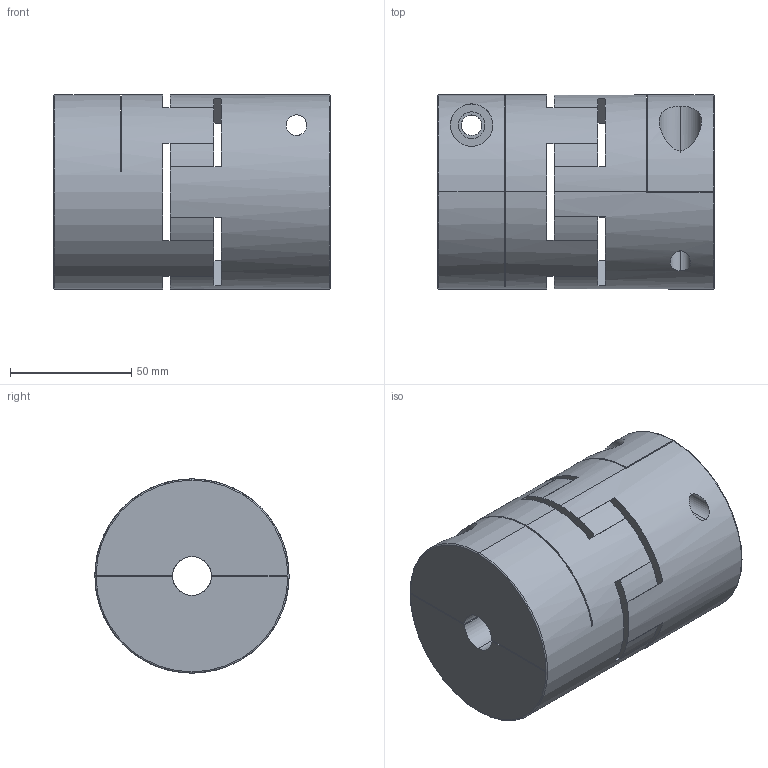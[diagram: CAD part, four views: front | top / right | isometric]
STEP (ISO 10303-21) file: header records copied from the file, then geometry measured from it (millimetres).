
FILE_DESCRIPTION (( 'STEP AP203' ), '1' );
FILE_NAME ('SQR-80C.STEP', '2009-10-01T16:07:38', ( 'USER' ), ( 'HOME' ), 'SwSTEP 2.0', 'SolidWorks 2007', '' );
FILE_SCHEMA (( 'CONFIG_CONTROL_DESIGN' ));
Length unit declared in the file: millimetre
Products named in the file (1): SQR-80C
Bounding box: 114 x 80 x 80 mm (x, y, z)
Volume: 504604.2 mm3; surface area: 88853.3 mm2
Topology: 3 solids, 3 shells, 100 faces, 280 edges, 186 vertices
Faces by surface type: plane 62, cylinder 34, torus 4
Entity records: 3670 total; most frequent: CARTESIAN_POINT 920, DIRECTION 562, ORIENTED_EDGE 560, EDGE_CURVE 280, AXIS2_PLACEMENT_3D 193, VERTEX_POINT 186, VECTOR 176, LINE 176
